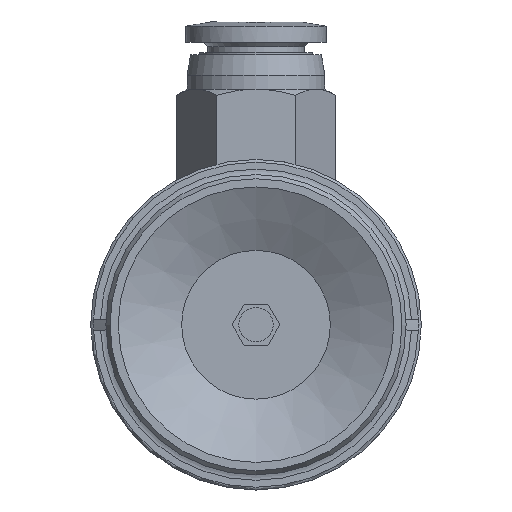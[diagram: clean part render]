
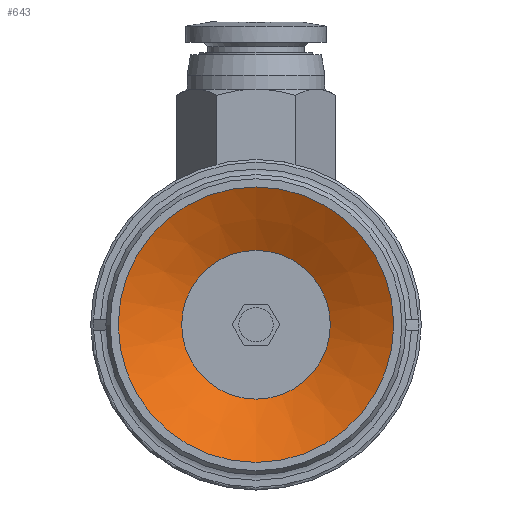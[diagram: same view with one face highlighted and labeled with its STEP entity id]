
A CAD part, front view. The second image highlights one B-rep face of the part: STEP entity #643.
In plain terms, the highlighted conical face has half-angle 61.631 degrees and reference radius 5.4 mm.
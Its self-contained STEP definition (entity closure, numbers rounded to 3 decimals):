
#643=ADVANCED_FACE('',(#1014,#1015),#1016,.F.);
#1014=FACE_BOUND('',#1461,.T.);
#1015=FACE_OUTER_BOUND('',#1462,.T.);
#1016=CONICAL_SURFACE('',#1463,5.4,1.076);
#1461=EDGE_LOOP('',(#2679));
#1462=EDGE_LOOP('',(#2680));
#1463=AXIS2_PLACEMENT_3D('',#2681,#2682,#2683);
#2679=ORIENTED_EDGE('',*,*,#3207,.F.);
#2680=ORIENTED_EDGE('',*,*,#3244,.T.);
#2681=CARTESIAN_POINT('',(0.0,2.484,0.0));
#2682=DIRECTION('',(-0.0,-1.0,0.));
#2683=DIRECTION('',(0.0,0.,-1.0));
#3207=EDGE_CURVE('',#3681,#3681,#3682,.T.);
#3244=EDGE_CURVE('',#3745,#3745,#3746,.T.);
#3681=VERTEX_POINT('',#4683);
#3682=CIRCLE('',#4684,5.4);
#3745=VERTEX_POINT('',#4759);
#3746=CIRCLE('',#4760,10.0);
#4683=CARTESIAN_POINT('',(0.0,2.484,-5.4));
#4684=AXIS2_PLACEMENT_3D('',#5542,#5543,#5544);
#4759=CARTESIAN_POINT('',(0.0,0.,-10.0));
#4760=AXIS2_PLACEMENT_3D('',#5629,#5630,#5631);
#5542=CARTESIAN_POINT('',(0.0,2.484,0.0));
#5543=DIRECTION('',(0.0,-1.0,0.));
#5544=DIRECTION('',(0.0,0.,-1.0));
#5629=CARTESIAN_POINT('',(0.0,0.0,0.0));
#5630=DIRECTION('',(0.0,-1.0,0.));
#5631=DIRECTION('',(0.0,0.,-1.0));
